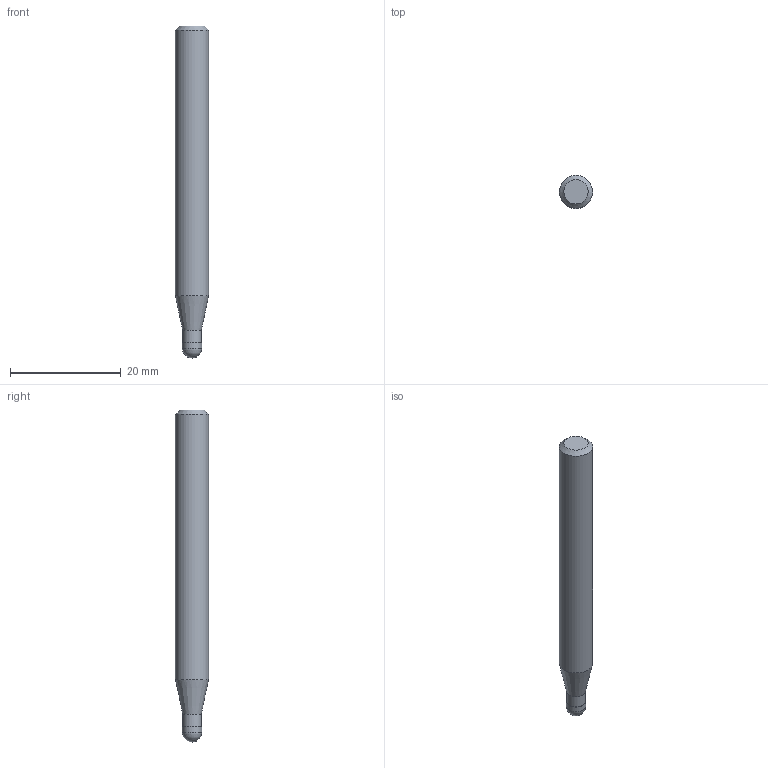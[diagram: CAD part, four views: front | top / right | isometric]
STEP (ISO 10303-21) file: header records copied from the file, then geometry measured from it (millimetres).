
FILE_DESCRIPTION((''),'2;1');
FILE_NAME('C:\Users\nsx150\AppData\Local\Temp\Mastercam 2021\ARV7HD45SN\TEMP.step','2023-06-13T16:38:40',(''),(''),'STEP Write','Mastercam 2021 ... CNC Software, Inc.','');
FILE_SCHEMA(('AUTOMOTIVE_DESIGN'));
Length unit declared in the file: millimetre
Products named in the file (1): None
Bounding box: 6 x 6 x 60 mm (x, y, z)
Volume: 1523.9 mm3; surface area: 1103.8 mm2
Topology: 2 solids, 2 shells, 9 faces, 14 edges, 8 vertices
Faces by surface type: plane 3, cylinder 3, cone 2, sphere 1
Full cylindrical faces by diameter (mm): 3.35 x1, 3.5 x1, 6 x1
Entity records: 211 total; most frequent: DIRECTION 36, CARTESIAN_POINT 25, AXIS2_PLACEMENT_3D 18, ORIENTED_EDGE 14, EDGE_LOOP 14, STYLED_ITEM 12, ADVANCED_FACE 9, FACE_BOUND 8
